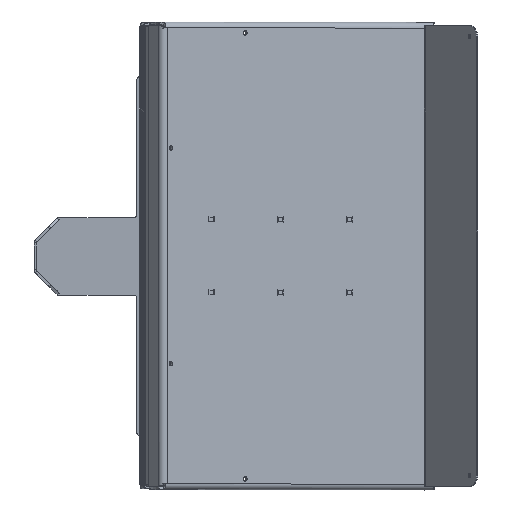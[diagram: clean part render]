
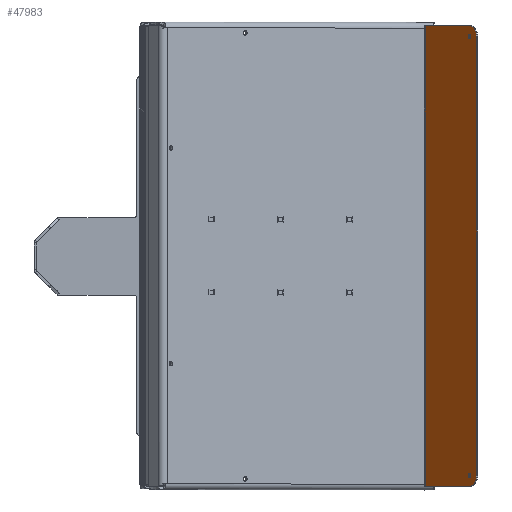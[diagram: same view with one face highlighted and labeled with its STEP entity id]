
A CAD part, top view. The second image highlights one B-rep face of the part: STEP entity #47983.
In plain terms, the highlighted planar face has unit normal (-0.766, 0, 0.643) as drawn and (0, 0, -1) by its records, which use the part's own axes.
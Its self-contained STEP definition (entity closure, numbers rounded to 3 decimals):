
#3033=PLANE('',#51713);
#5524=LINE('',#75106,#9784);
#5527=LINE('',#75112,#9787);
#5528=LINE('',#75114,#9788);
#5529=LINE('',#75116,#9789);
#9784=VECTOR('',#59964,1220.);
#9787=VECTOR('',#59969,192.);
#9788=VECTOR('',#59970,1280.);
#9789=VECTOR('',#59971,192.);
#12578=FACE_BOUND('',#16533,.T.);
#12579=FACE_BOUND('',#16534,.T.);
#13782=FACE_OUTER_BOUND('',#16532,.T.);
#16532=EDGE_LOOP('',(#37608,#37609,#37610,#37611,#37612,#37613));
#16533=EDGE_LOOP('',(#37614));
#16534=EDGE_LOOP('',(#37615));
#19406=CIRCLE('',#51678,6.);
#19408=CIRCLE('',#51681,6.);
#19426=CIRCLE('',#51711,30.);
#19427=CIRCLE('',#51714,30.);
#22220=VERTEX_POINT('',#75027);
#22222=VERTEX_POINT('',#75032);
#22248=VERTEX_POINT('',#75099);
#22249=VERTEX_POINT('',#75101);
#22250=VERTEX_POINT('',#75105);
#22252=VERTEX_POINT('',#75111);
#22253=VERTEX_POINT('',#75113);
#22254=VERTEX_POINT('',#75115);
#27804=EDGE_CURVE('',#22220,#22220,#19406,.T.);
#27806=EDGE_CURVE('',#22222,#22222,#19408,.T.);
#27836=EDGE_CURVE('',#22248,#22249,#19426,.T.);
#27838=EDGE_CURVE('',#22249,#22250,#5524,.T.);
#27841=EDGE_CURVE('',#22252,#22248,#5527,.T.);
#27842=EDGE_CURVE('',#22252,#22253,#5528,.T.);
#27843=EDGE_CURVE('',#22254,#22253,#5529,.T.);
#27844=EDGE_CURVE('',#22250,#22254,#19427,.T.);
#37608=ORIENTED_EDGE('',*,*,#27836,.F.);
#37609=ORIENTED_EDGE('',*,*,#27841,.F.);
#37610=ORIENTED_EDGE('',*,*,#27842,.T.);
#37611=ORIENTED_EDGE('',*,*,#27843,.F.);
#37612=ORIENTED_EDGE('',*,*,#27844,.F.);
#37613=ORIENTED_EDGE('',*,*,#27838,.F.);
#37614=ORIENTED_EDGE('',*,*,#27804,.T.);
#37615=ORIENTED_EDGE('',*,*,#27806,.T.);
#47983=ADVANCED_FACE('',(#13782,#12578,#12579),#3033,.F.);
#51678=AXIS2_PLACEMENT_3D('',#75028,#59881,#59882);
#51681=AXIS2_PLACEMENT_3D('',#75033,#59887,#59888);
#51711=AXIS2_PLACEMENT_3D('',#75102,#59959,#59960);
#51713=AXIS2_PLACEMENT_3D('',#75110,#59967,#59968);
#51714=AXIS2_PLACEMENT_3D('',#75117,#59972,#59973);
#59881=DIRECTION('center_axis',(0.,0.,1.));
#59882=DIRECTION('ref_axis',(1.,0.,0.));
#59887=DIRECTION('center_axis',(0.,0.,1.));
#59888=DIRECTION('ref_axis',(1.,0.,0.));
#59959=DIRECTION('center_axis',(0.,0.,1.));
#59960=DIRECTION('ref_axis',(0.707,0.707,0.));
#59964=DIRECTION('',(-1.,0.,0.));
#59967=DIRECTION('center_axis',(0.,0.,1.));
#59968=DIRECTION('ref_axis',(1.,0.,0.));
#59969=DIRECTION('',(0.,1.,0.));
#59970=DIRECTION('',(-1.,0.,0.));
#59971=DIRECTION('',(0.,-1.,0.));
#59972=DIRECTION('center_axis',(0.,0.,1.));
#59973=DIRECTION('ref_axis',(-0.707,0.707,0.));
#75027=CARTESIAN_POINT('',(616.,85.,0.));
#75028=CARTESIAN_POINT('Origin',(610.,85.,0.));
#75032=CARTESIAN_POINT('',(-604.,85.,0.));
#75033=CARTESIAN_POINT('Origin',(-610.,85.,0.));
#75099=CARTESIAN_POINT('',(640.,85.,0.));
#75101=CARTESIAN_POINT('',(610.,115.,0.));
#75102=CARTESIAN_POINT('Origin',(610.,85.,0.));
#75105=CARTESIAN_POINT('',(-610.,115.,0.));
#75106=CARTESIAN_POINT('',(640.,115.,0.));
#75110=CARTESIAN_POINT('Origin',(0.,0.,
0.));
#75111=CARTESIAN_POINT('',(640.,-107.,0.));
#75112=CARTESIAN_POINT('',(640.,-115.,0.));
#75113=CARTESIAN_POINT('',(-640.,-107.,0.));
#75114=CARTESIAN_POINT('',(320.,-107.,0.));
#75115=CARTESIAN_POINT('',(-640.,85.,0.));
#75116=CARTESIAN_POINT('',(-640.,115.,0.));
#75117=CARTESIAN_POINT('Origin',(-610.,85.,0.));
